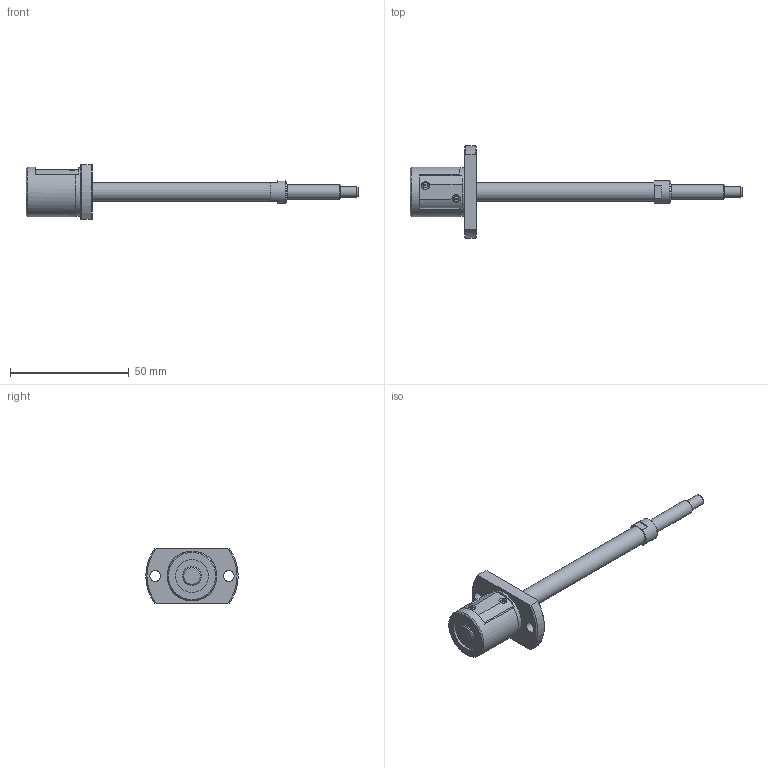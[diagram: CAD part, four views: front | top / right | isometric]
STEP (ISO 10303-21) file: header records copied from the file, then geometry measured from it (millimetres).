
FILE_DESCRIPTION( ( 'STEP AP203' ), '1' );
FILE_NAME( 'e:/temp/worker_83/temp/exporttempdir_4668_422_vN97L/format_0/SG0804-098R140C3A1X(0).stp', '2021-10-19T00:36:13', ( 'License CC BY-ND 4.0' ), ( 'CADENAS' ), ' ', 'PARTsolutions', ' ' );
FILE_SCHEMA( ( 'CONFIG_CONTROL_DESIGN' ) );
Length unit declared in the file: millimetre
Products named in the file (3): SG0804-098R140C3A1X(0); _SG0804-98R140C3A_shaft; _SG0804_nut
Assembly tree (2 placements, depth 2):
  SG0804-098R140C3A1X(0)
    _SG0804-98R140C3A_shaft
    _SG0804_nut
Bounding box: 140 x 39 x 23 mm (x, y, z)
Volume: 16563.5 mm3; surface area: 7933.1 mm2
Topology: 2 solids, 2 shells, 72 faces, 177 edges, 116 vertices
Faces by surface type: plane 35, cylinder 23, cone 13, torus 1
Full cylindrical faces by diameter (mm): 4.5 x3, 6 x1, 8 x2, 9.5 x1, 14 x2, 20.5 x1, 21 x1
Entity records: 2112 total; most frequent: CARTESIAN_POINT 409, DIRECTION 346, ORIENTED_EDGE 292, EDGE_CURVE 146, AXIS2_PLACEMENT_3D 143, EDGE_LOOP 106, VERTEX_POINT 106, FACE_OUTER_BOUND 84
